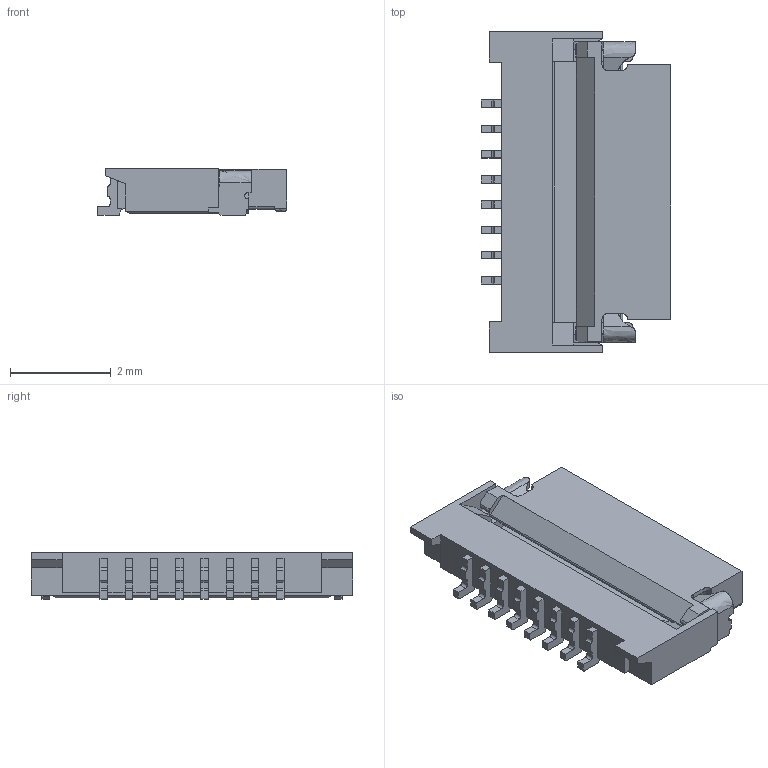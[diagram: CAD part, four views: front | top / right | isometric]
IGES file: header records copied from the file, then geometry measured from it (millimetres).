
Start section: SolidWorks IGES file using analytic representation for surfaces
Bounding box: 3.75 x 6.37 x 0.93 mm (x, y, z)
Surface area: 87.7 mm2 (no closed solid volume)
Topology: 0 solids, 0 shells, 357 faces, 2450 edges, 2430 vertices
Faces by surface type: bspline 252, revolution 105
